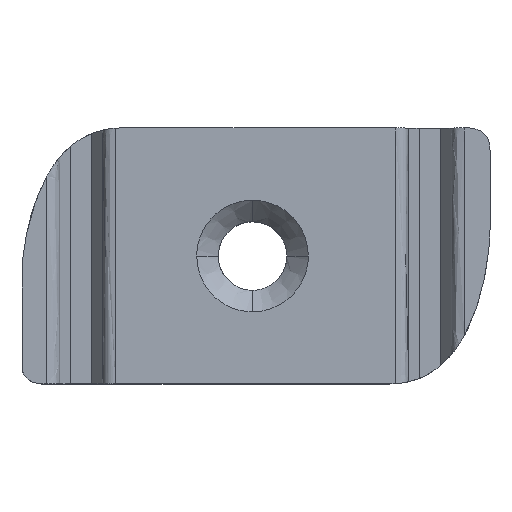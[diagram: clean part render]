
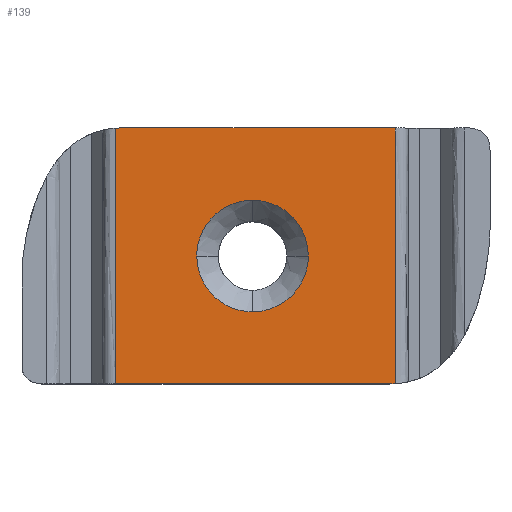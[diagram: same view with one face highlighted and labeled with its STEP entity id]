
A CAD part, top view. The second image highlights one B-rep face of the part: STEP entity #139.
In plain terms, the highlighted planar face has unit normal (0, 0, 1).
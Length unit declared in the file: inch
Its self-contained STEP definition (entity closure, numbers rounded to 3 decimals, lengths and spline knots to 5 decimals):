
#139=ADVANCED_FACE('',(#272,#273),#274,.T.);
#272=FACE_OUTER_BOUND('',#2058,.T.);
#273=FACE_BOUND('',#2059,.T.);
#274=PLANE('',#2060);
#2058=EDGE_LOOP('',(#2346,#2347,#2348,#2349,#2350,#2351));
#2059=EDGE_LOOP('',(#2352,#2353,#2354,#2355));
#2060=AXIS2_PLACEMENT_3D('',#2356,#2357,#2358);
#2346=ORIENTED_EDGE('',*,*,#2495,.F.);
#2347=ORIENTED_EDGE('',*,*,#2469,.T.);
#2348=ORIENTED_EDGE('',*,*,#2485,.T.);
#2349=ORIENTED_EDGE('',*,*,#2458,.T.);
#2350=ORIENTED_EDGE('',*,*,#2493,.T.);
#2351=ORIENTED_EDGE('',*,*,#2487,.T.);
#2352=ORIENTED_EDGE('',*,*,#2446,.F.);
#2353=ORIENTED_EDGE('',*,*,#2454,.F.);
#2354=ORIENTED_EDGE('',*,*,#2428,.F.);
#2355=ORIENTED_EDGE('',*,*,#2409,.F.);
#2356=CARTESIAN_POINT('',(0.67573,0.15377,0.));
#2357=DIRECTION('',(0.0,0.0,1.0));
#2358=DIRECTION('',(1.0,0.0,0.0));
#2409=EDGE_CURVE('',#2581,#2584,#2585,.T.);
#2428=EDGE_CURVE('',#2584,#2613,#2615,.T.);
#2446=EDGE_CURVE('',#2636,#2581,#2638,.T.);
#2454=EDGE_CURVE('',#2613,#2636,#2648,.T.);
#2458=EDGE_CURVE('',#2650,#2652,#2654,.T.);
#2469=EDGE_CURVE('',#2668,#2666,#2669,.T.);
#2485=EDGE_CURVE('',#2666,#2650,#2685,.T.);
#2487=EDGE_CURVE('',#2687,#2688,#2689,.T.);
#2493=EDGE_CURVE('',#2652,#2687,#2695,.T.);
#2495=EDGE_CURVE('',#2668,#2688,#2697,.T.);
#2581=VERTEX_POINT('',#2917);
#2584=VERTEX_POINT('',#2921);
#2585=B_SPLINE_CURVE_WITH_KNOTS('',3,(#2922,#2923,#2924,#2925,#2926,#2927,#2928,#2929,#2930,#2931,#2932,#2933,#2934,#2935),.UNSPECIFIED.,.F.,.F.,(4,2,2,2,2,2,4),(0.0,0.0022,0.06669,0.12762,0.13059,0.19275,0.25524),.UNSPECIFIED.);
#2613=VERTEX_POINT('',#3005);
#2615=B_SPLINE_CURVE_WITH_KNOTS('',3,(#3008,#3009,#3010,#3011,#3012,#3013,#3014,#3015,#3016,#3017),.UNSPECIFIED.,.F.,.F.,(4,2,2,2,4),(0.00054,0.06417,0.12813,0.19208,0.25626),.UNSPECIFIED.);
#2636=VERTEX_POINT('',#3073);
#2638=B_SPLINE_CURVE_WITH_KNOTS('',3,(#3076,#3077,#3078,#3079,#3080,#3081,#3082,#3083,#3084,#3085,#3086,#3087,#3088,#3089),.UNSPECIFIED.,.F.,.F.,(4,2,2,2,2,2,4),(0.0,0.03394,0.06701,0.12778,0.13091,0.19308,0.25555),.UNSPECIFIED.);
#2648=B_SPLINE_CURVE_WITH_KNOTS('',3,(#3121,#3122,#3123,#3124,#3125,#3126,#3127,#3128,#3129,#3130,#3131,#3132,#3133,#3134),.UNSPECIFIED.,.F.,.F.,(4,2,2,2,2,2,4),(0.0,0.06248,0.12465,0.12762,0.18855,0.25304,0.25524),.UNSPECIFIED.);
#2650=VERTEX_POINT('',#3136);
#2652=VERTEX_POINT('',#3149);
#2654=LINE('',#3154,#3155);
#2666=VERTEX_POINT('',#3176);
#2668=VERTEX_POINT('',#3179);
#2669=LINE('',#3180,#3181);
#2685=B_SPLINE_CURVE_WITH_KNOTS('',3,(#3303,#3304,#3305,#3306),.UNSPECIFIED.,.F.,.F.,(4,4),(0.0,0.0685),.UNSPECIFIED.);
#2687=VERTEX_POINT('',#3308);
#2688=VERTEX_POINT('',#3309);
#2689=B_SPLINE_CURVE_WITH_KNOTS('',3,(#3310,#3311,#3312,#3313),.UNSPECIFIED.,.F.,.F.,(4,4),(0.0,0.0685),.UNSPECIFIED.);
#2695=LINE('',#3334,#3335);
#2697=LINE('',#3337,#3338);
#2917=CARTESIAN_POINT('',(0.83923,0.37474,0.));
#2921=CARTESIAN_POINT('',(0.67573,0.53824,0.));
#2922=CARTESIAN_POINT('',(0.83923,0.37474,0.));
#2923=CARTESIAN_POINT('',(0.83923,0.37548,0.));
#2924=CARTESIAN_POINT('',(0.83922,0.37621,0.));
#2925=CARTESIAN_POINT('',(0.83893,0.39844,0.));
#2926=CARTESIAN_POINT('',(0.83425,0.42029,0.));
#2927=CARTESIAN_POINT('',(0.81756,0.45861,0.));
#2928=CARTESIAN_POINT('',(0.8057,0.47599,0.));
#2929=CARTESIAN_POINT('',(0.79061,0.49108,0.));
#2930=CARTESIAN_POINT('',(0.78991,0.49177,0.));
#2931=CARTESIAN_POINT('',(0.77428,0.50684,0.));
#2932=CARTESIAN_POINT('',(0.75627,0.51855,0.));
#2933=CARTESIAN_POINT('',(0.71776,0.53414,0.));
#2934=CARTESIAN_POINT('',(0.69655,0.53824,0.));
#2935=CARTESIAN_POINT('',(0.67573,0.53824,0.));
#3005=CARTESIAN_POINT('',(0.51223,0.37474,0.));
#3008=CARTESIAN_POINT('',(0.67518,0.53824,0.));
#3009=CARTESIAN_POINT('',(0.65398,0.53817,0.));
#3010=CARTESIAN_POINT('',(0.6329,0.53398,0.));
#3011=CARTESIAN_POINT('',(0.59359,0.51773,0.));
#3012=CARTESIAN_POINT('',(0.57519,0.50543,0.));
#3013=CARTESIAN_POINT('',(0.54504,0.47528,0.));
#3014=CARTESIAN_POINT('',(0.53273,0.45687,0.));
#3015=CARTESIAN_POINT('',(0.51642,0.4174,0.));
#3016=CARTESIAN_POINT('',(0.51223,0.39613,0.));
#3017=CARTESIAN_POINT('',(0.51223,0.37489,0.));
#3073=CARTESIAN_POINT('',(0.67573,0.21124,0.));
#3076=CARTESIAN_POINT('',(0.67573,0.21124,0.));
#3077=CARTESIAN_POINT('',(0.68704,0.21124,0.));
#3078=CARTESIAN_POINT('',(0.69841,0.21241,0.));
#3079=CARTESIAN_POINT('',(0.72027,0.21701,0.));
#3080=CARTESIAN_POINT('',(0.73088,0.2204,0.));
#3081=CARTESIAN_POINT('',(0.75956,0.23289,0.));
#3082=CARTESIAN_POINT('',(0.77689,0.24471,0.));
#3083=CARTESIAN_POINT('',(0.79199,0.25978,0.));
#3084=CARTESIAN_POINT('',(0.79273,0.26053,0.));
#3085=CARTESIAN_POINT('',(0.80783,0.2762,0.));
#3086=CARTESIAN_POINT('',(0.81954,0.2942,0.));
#3087=CARTESIAN_POINT('',(0.83513,0.33271,0.));
#3088=CARTESIAN_POINT('',(0.83923,0.35392,0.));
#3089=CARTESIAN_POINT('',(0.83923,0.37474,0.));
#3121=CARTESIAN_POINT('',(0.51223,0.37474,0.));
#3122=CARTESIAN_POINT('',(0.51223,0.35391,0.));
#3123=CARTESIAN_POINT('',(0.51632,0.33271,0.));
#3124=CARTESIAN_POINT('',(0.53192,0.2942,0.));
#3125=CARTESIAN_POINT('',(0.54363,0.27619,0.));
#3126=CARTESIAN_POINT('',(0.5587,0.26056,0.));
#3127=CARTESIAN_POINT('',(0.55939,0.25985,0.));
#3128=CARTESIAN_POINT('',(0.57447,0.24476,0.));
#3129=CARTESIAN_POINT('',(0.59185,0.23291,0.));
#3130=CARTESIAN_POINT('',(0.63018,0.21621,0.));
#3131=CARTESIAN_POINT('',(0.65203,0.21154,0.));
#3132=CARTESIAN_POINT('',(0.67426,0.21124,0.));
#3133=CARTESIAN_POINT('',(0.67499,0.21124,0.));
#3134=CARTESIAN_POINT('',(0.67573,0.21124,0.));
#3136=CARTESIAN_POINT('',(1.09467,0.00056,0.));
#3149=CARTESIAN_POINT('',(1.09467,0.75,0.));
#3154=CARTESIAN_POINT('',(1.09467,0.,0.));
#3155=VECTOR('',#3387,1.);
#3176=CARTESIAN_POINT('',(1.07736,0.,0.));
#3179=CARTESIAN_POINT('',(0.27409,0.,0.));
#3180=CARTESIAN_POINT('',(0.27409,0.,0.));
#3181=VECTOR('',#3392,1.0);
#3303=CARTESIAN_POINT('',(1.07736,0.,0.));
#3304=CARTESIAN_POINT('',(1.1002,0.,0.));
#3305=CARTESIAN_POINT('',(1.12274,0.00287,0.));
#3306=CARTESIAN_POINT('',(1.14467,0.00926,0.));
#3308=CARTESIAN_POINT('',(0.28634,0.75,0.));
#3309=CARTESIAN_POINT('',(0.27409,0.74948,0.));
#3310=CARTESIAN_POINT('',(0.29139,0.75005,0.));
#3311=CARTESIAN_POINT('',(0.26856,0.75005,0.));
#3312=CARTESIAN_POINT('',(0.24601,0.74718,0.));
#3313=CARTESIAN_POINT('',(0.22409,0.74079,0.));
#3334=CARTESIAN_POINT('',(0.27409,0.75,0.));
#3335=VECTOR('',#3396,1.0);
#3337=CARTESIAN_POINT('',(0.27409,0.15377,0.));
#3338=VECTOR('',#3397,1.);
#3387=DIRECTION('',(0.0,1.0,0.0));
#3392=DIRECTION('',(1.0,0.0,0.0));
#3396=DIRECTION('',(-1.0,-0.0,0.0));
#3397=DIRECTION('',(0.0,1.0,0.0));
